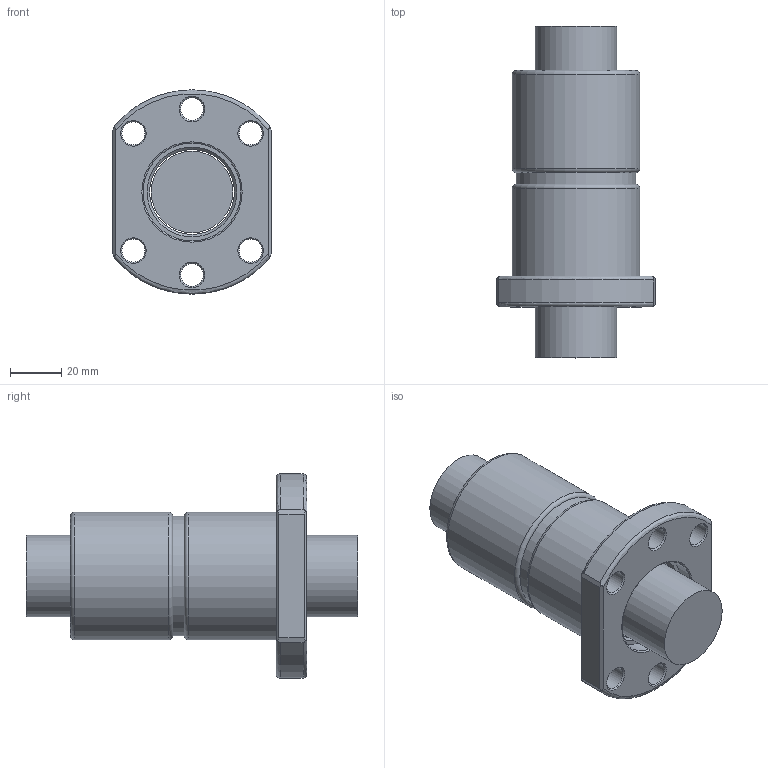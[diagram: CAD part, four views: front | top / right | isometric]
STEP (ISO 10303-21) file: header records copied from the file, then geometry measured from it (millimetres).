
FILE_DESCRIPTION(/* description */ (''),/* implementation_level */ '2;1');
FILE_NAME(/* name */ '3205.prt.step',/* time_stamp */ '2008-12-05T09:27:50+08:00',/* author */ (''),/* organization */ (''),/* preprocessor_version */ 'ST-DEVELOPER v11',/* originating_system */ 'SIEMENS UGS NX 6.0',/* authorisation */ '');
FILE_SCHEMA (('AUTOMOTIVE_DESIGN { 1 0 10303 214 1 1 1 1 }'));
Length unit declared in the file: millimetre
Products named in the file (1): 3205
Bounding box: 62 x 130 x 80 mm (x, y, z)
Volume: 223475.4 mm3; surface area: 51180.3 mm2
Topology: 4 solids, 4 shells, 69 faces, 152 edges, 96 vertices
Faces by surface type: plane 23, cylinder 19, cone 16, torus 11
Full cylindrical faces by diameter (mm): 9 x6, 31.95 x1, 33.2 x2, 35 x1, 38.3 x4, 47 x1, 50 x2
Entity records: 1925 total; most frequent: CARTESIAN_POINT 504, DIRECTION 294, ORIENTED_EDGE 210, AXIS2_PLACEMENT_3D 135, EDGE_LOOP 132, FACE_BOUND 114, EDGE_CURVE 105, VERTEX_POINT 89
